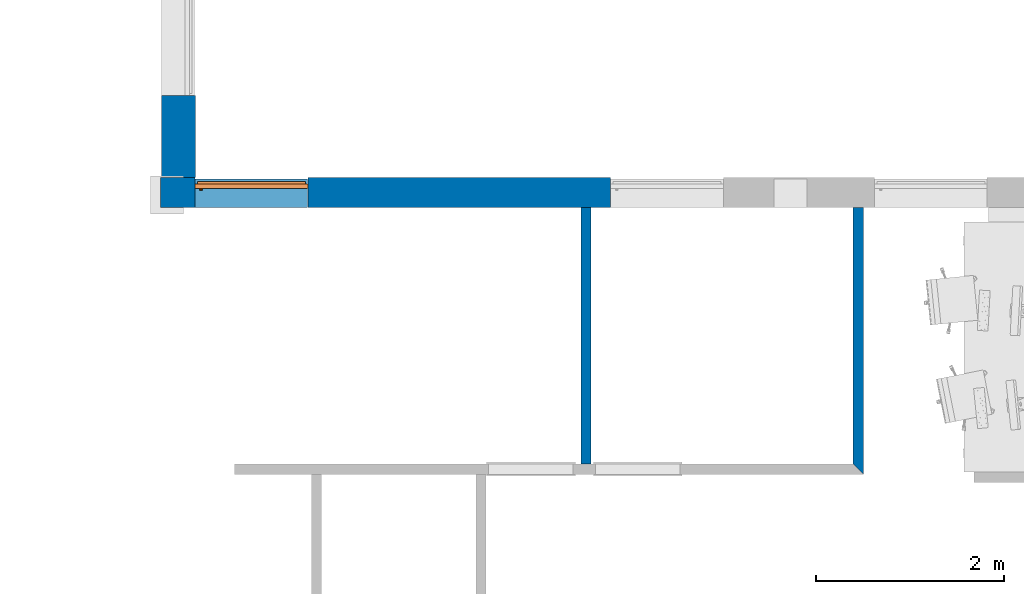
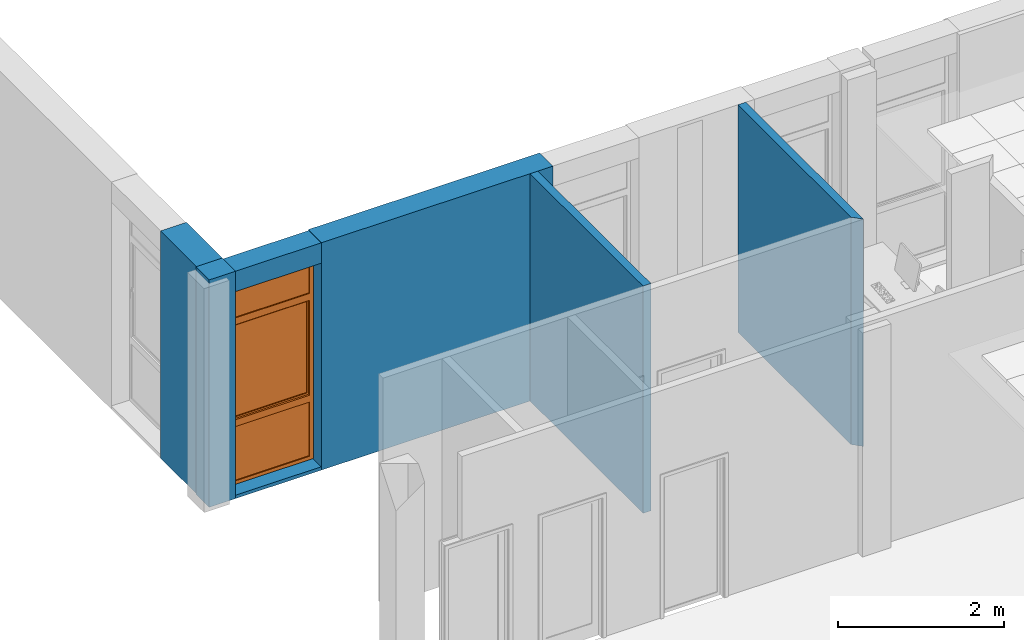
# One storey, part 24 of 68: 6 walls, 1 proxy, 1 opening.
"""IFC2X3 building model written with IfcOpenShell, lengths in millimetres."""

from ifc_helpers import new_model, entity, si_unit, converted_unit, derived_unit, money_unit, direction, frame, origin_with_axes, origin_2d_with_axis, place, context, subcontext, project, spatial, polyline, rectangle, outline, extrude, open_shell, faceted_brep, surface_model, source, transform, mapped, material, layer, layer_set, layer_usage, type_object, element, fill, save


model = new_model("IFC2X3")

# Units and contexts
model_context = context("Model", 3, precision=0.01, world=origin_with_axes(), true_north=direction((0.0, 1.0)))
body_context = subcontext(model_context, "Body", "Model", "MODEL_VIEW")
ifc_project = project(units=[si_unit("LENGTHUNIT", "METRE", prefix="MILLI"), si_unit("AREAUNIT", "SQUARE_METRE"), si_unit("VOLUMEUNIT", "CUBIC_METRE"), converted_unit("PLANEANGLEUNIT", "DEGREE", entity("IfcPlaneAngleMeasure", 0.0174532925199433), si_unit("PLANEANGLEUNIT", "RADIAN"), dimensions=[0, 0, 0, 0, 0, 0, 0]), money_unit("USD"), converted_unit("TIMEUNIT", "Year", entity("IfcTimeMeasure", 31557600.0), si_unit("TIMEUNIT", "SECOND"), dimensions=[0, 0, 1, 0, 0, 0, 0]), si_unit("MASSUNIT", "GRAM", prefix="KILO"), si_unit("THERMODYNAMICTEMPERATUREUNIT", "DEGREE_CELSIUS"), si_unit("LUMINOUSINTENSITYUNIT", "LUMEN"), si_unit("ENERGYUNIT", "JOULE", prefix="MEGA"), derived_unit("THERMALCONDUCTANCEUNIT", [(si_unit("POWERUNIT", "WATT"), 1), (si_unit("LENGTHUNIT", "METRE"), -1), (si_unit("THERMODYNAMICTEMPERATUREUNIT", "KELVIN"), -1)]), derived_unit("SPECIFICHEATCAPACITYUNIT", [(si_unit("ENERGYUNIT", "JOULE"), 1), (si_unit("MASSUNIT", "GRAM", prefix="KILO"), -1), (si_unit("THERMODYNAMICTEMPERATUREUNIT", "KELVIN"), -1)]), derived_unit("MASSDENSITYUNIT", [(si_unit("MASSUNIT", "GRAM", prefix="KILO"), 1), (si_unit("VOLUMEUNIT", "CUBIC_METRE"), -1)])], contexts=[model_context])

# Site, building, storey
site_placement = place(None, origin_with_axes())
site = spatial("IfcSite", under=ifc_project, at=site_placement, Name="Sitio", CompositionType="ELEMENT")
building_placement = place(site_placement, origin_with_axes())
building = spatial("IfcBuilding", under=site, at=building_placement, Name="Construcción", CompositionType="ELEMENT")
storey_placement = place(building_placement, origin_with_axes())
storey = spatial("IfcBuildingStorey", under=building, at=storey_placement, Name="PLANTA 1ª", CompositionType="ELEMENT", Elevation=0.0)

# Wall, opening, proxy
ifc_material_1 = material(Name="ARQ_AM246_Arrebossat_De_Guix")
ifc_layer_1 = layer(ifc_material_1, 20.0, ventilated="UNKNOWN")
ifc_material_2 = material(Name="ARQ_CE217_Gero")
ifc_layer_2 = layer(ifc_material_2, 110.0, ventilated="UNKNOWN")
ifc_material_3 = material(Name="ARQ_AI031_Aillament_Poliestireno expandido EPS")
ifc_layer_3 = layer(ifc_material_3, 100.0, ventilated="UNKNOWN")
ifc_material_4 = material(Name="ARQ_CE218_Ceramic")
ifc_layer_4 = layer(ifc_material_4, 50.0, ventilated="UNKNOWN")
ifc_layer_5 = layer(ifc_material_1, 20.0, ventilated="UNKNOWN")
ifc_layer_set_1 = layer_set([ifc_layer_1, ifc_layer_2, ifc_layer_3, ifc_layer_4, ifc_layer_5], Name="façana pati CR3 (ampit)")
ifc_layer_usage_1 = layer_usage(ifc_layer_set_1, "AXIS2", "POSITIVE", -300.0000000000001)
wall_type_1 = type_object("IfcWallType", Name="façana pati CR3 (ampit) 300", PredefinedType="NOTDEFINED")
wall_1_placement = place(storey_placement, frame((-26497.52587573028, -12338.97582371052, 0.0), z_axis=(0.0, 0.0, 1.0), x_axis=(-1.0, 0.0, 0.0)))
wall_1 = element("IfcWallStandardCase", 1, at=wall_1_placement, inside=storey, type_object=wall_type_1, material=ifc_layer_usage_1, Name="MS-201", context=body_context, shape_type="SweptSolid", body=[
    extrude(outline(polyline([(0.0, -300.0000000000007), (1194.999999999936, -300.0000000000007), (1194.999999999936, 0.0), (0.0, 0.0), (0.0, -300.0000000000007)])), origin_with_axes(), (0.0, 0.0, 1.0), 3350.0),
])
opening_placement = place(wall_1_placement, frame((594.9999999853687, 0.0, 50.0), z_axis=(0.0, 0.0, 1.0), x_axis=(1.0, 0.0, 0.0)))
opening = element("IfcOpeningElement", 2, at=opening_placement, cuts=wall_1, Name="V - 008", context=body_context, shape_type="SweptSolid", body=[
    extrude(rectangle(XDim=1200.000000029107, YDim=3000.0, at=origin_2d_with_axis()), frame((0.0, -250.0, 1500.0), z_axis=(0.0, -1.0, 0.0), x_axis=(-1.0, 0.0, 0.0)), (0.0, 0.0, -1.0), 550.0),
    extrude(rectangle(XDim=1200.000000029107, YDim=3000.0, at=origin_2d_with_axis()), frame((0.0, -250.0, 1500.0), z_axis=(0.0, 1.0, 0.0), x_axis=(-1.0, 0.0, 0.0)), (0.0, 0.0, -1.0), 350.0000000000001),
])
building_element_proxy_type = type_object("IfcBuildingElementProxyType", Name="Ventana Vertical Multi-Faja 27", PredefinedType="NOTDEFINED")
shared_shape = source(origin_with_axes(), body_context, "Body", "SurfaceModel", [
    faceted_brep([(-575.0000000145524, 0.0, 925.0), (-550.0000000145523, 0.0, 925.0), (-550.0000000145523, 0.0, 850.0), (-550.0000000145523, 0.0, 50.00000000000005), (-600.0000000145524, 0.0, 50.00000000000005), (-600.0000000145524, 0.0, 2950.0), (-550.0000000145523, 0.0, 2950.0), (-550.0000000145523, 0.0, 2450.0), (-550.0000000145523, 0.0, 2375.0), (-575.0000000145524, 0.0, 2375.0), (-575.0000000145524, -25.00000000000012, 925.0), (-550.0000000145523, -25.00000000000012, 925.0), (-550.0000000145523, -25.00000000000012, 950.0000000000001), (-550.0000000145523, -50.00000000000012, 950.0000000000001), (-550.0000000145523, -50.00000000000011, 850.0), (-550.0000000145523, -50.00000000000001, 50.00000000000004), (-600.0000000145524, -50.00000000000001, 50.00000000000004), (-600.0000000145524, -50.00000000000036, 2950.0), (-550.0000000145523, -50.00000000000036, 2950.0), (-550.0000000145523, -50.0000000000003, 2450.0), (-550.0000000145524, -25.00000000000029, 2375.0), (-550.0000000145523, -50.00000000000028, 2350.0), (-550.0000000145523, -25.00000000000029, 2350.0), (-575.0000000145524, -25.00000000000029, 2375.0)], [[[0, 1, 2, 3, 4, 5, 6, 7, 8, 9]], [[0, 10, 11, 1]], [[11, 12, 13, 14, 2, 1]], [[3, 2, 14, 15]], [[4, 3, 15, 16]], [[5, 4, 16, 17]], [[6, 5, 17, 18]], [[7, 6, 18, 19]], [[20, 8, 7, 19, 21, 22]], [[20, 23, 9, 8]], [[9, 23, 10, 0]], [[22, 12, 11, 10, 23, 20]], [[22, 21, 13, 12]], [[17, 16, 15, 14, 13, 21, 19, 18]]]),
    faceted_brep([(575.0000000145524, 0.0, 925.0), (575.0000000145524, 0.0, 2375.0), (550.0000000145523, 0.0, 2375.0), (550.0000000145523, 0.0, 2450.0), (550.0000000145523, 0.0, 2950.0), (600.0000000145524, 0.0, 2950.0), (600.0000000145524, 0.0, 50.00000000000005), (550.0000000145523, 0.0, 50.00000000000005), (550.0000000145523, 0.0, 850.0), (550.0000000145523, 0.0, 925.0), (575.0000000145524, -25.00000000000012, 925.0), (575.0000000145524, -25.00000000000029, 2375.0), (550.0000000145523, -25.00000000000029, 2375.0), (550.0000000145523, -25.00000000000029, 2350.0), (550.0000000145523, -50.00000000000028, 2350.0), (550.0000000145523, -50.0000000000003, 2450.0), (550.0000000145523, -50.00000000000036, 2950.0), (600.0000000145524, -50.00000000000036, 2950.0), (600.0000000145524, -50.00000000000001, 50.00000000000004), (550.0000000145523, -50.00000000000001, 50.00000000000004), (550.0000000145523, -50.00000000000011, 850.0), (550.0000000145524, -25.00000000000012, 925.0), (550.0000000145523, -50.00000000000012, 950.0000000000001), (550.0000000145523, -25.00000000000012, 950.0000000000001)], [[[0, 1, 2, 3, 4, 5, 6, 7, 8, 9]], [[0, 10, 11, 1]], [[1, 11, 12, 2]], [[12, 13, 14, 15, 3, 2]], [[4, 3, 15, 16]], [[5, 4, 16, 17]], [[6, 5, 17, 18]], [[7, 6, 18, 19]], [[8, 7, 19, 20]], [[21, 9, 8, 20, 22, 23]], [[9, 21, 10, 0]], [[12, 11, 10, 21, 23, 13]], [[23, 22, 14, 13]], [[14, 22, 20, 19, 18, 17, 16, 15]]]),
    faceted_brep([(-550.0000000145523, -25.00000000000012, 950.0000000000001), (-550.0000000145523, -50.00000000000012, 950.0000000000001), (550.0000000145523, -50.00000000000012, 950.0000000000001), (550.0000000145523, -25.00000000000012, 950.0000000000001), (-550.0000000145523, -25.00000000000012, 925.0), (-550.0000000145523, 0.0, 925.0), (-550.0000000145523, 0.0, 850.0), (-550.0000000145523, -50.00000000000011, 850.0), (550.0000000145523, -50.00000000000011, 850.0), (550.0000000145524, -25.00000000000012, 925.0), (550.0000000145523, 0.0, 850.0), (550.0000000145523, 0.0, 925.0)], [[[0, 1, 2, 3]], [[4, 5, 6, 7, 1, 0]], [[1, 7, 8, 2]], [[9, 3, 2, 8, 10, 11]], [[9, 4, 0, 3]], [[5, 4, 9, 11]], [[11, 10, 6, 5]], [[6, 10, 8, 7]]]),
    faceted_brep([(-550.0000000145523, 0.0, 2375.0), (-550.0000000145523, 0.0, 2450.0), (550.0000000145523, 0.0, 2450.0), (550.0000000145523, 0.0, 2375.0), (-550.0000000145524, -25.00000000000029, 2375.0), (-550.0000000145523, -25.00000000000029, 2350.0), (-550.0000000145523, -50.00000000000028, 2350.0), (-550.0000000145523, -50.0000000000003, 2450.0), (550.0000000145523, -50.0000000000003, 2450.0), (550.0000000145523, -25.00000000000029, 2375.0), (550.0000000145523, -50.00000000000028, 2350.0), (550.0000000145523, -25.00000000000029, 2350.0)], [[[0, 1, 2, 3]], [[4, 5, 6, 7, 1, 0]], [[2, 1, 7, 8]], [[9, 3, 2, 8, 10, 11]], [[9, 4, 0, 3]], [[11, 5, 4, 9]], [[11, 10, 6, 5]], [[7, 6, 10, 8]]]),
    faceted_brep([(550.0000000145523, -50.00000000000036, 2950.0), (550.0000000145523, 0.0, 2950.0), (600.0000000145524, 0.0, 2950.0), (600.0000000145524, -50.00000000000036, 2950.0), (-550.0000000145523, -50.00000000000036, 2950.0), (-550.0000000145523, 0.0, 2950.0), (-600.0000000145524, 0.0, 2950.0), (-600.0000000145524, 0.0, 3000.0), (600.0000000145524, 0.0, 3000.0), (600.0000000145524, -50.00000000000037, 3000.0), (-600.0000000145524, -50.00000000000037, 3000.0), (-600.0000000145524, -50.00000000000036, 2950.0)], [[[0, 1, 2, 3]], [[4, 5, 1, 0]], [[1, 5, 6, 7, 8, 2]], [[3, 2, 8, 9]], [[0, 3, 9, 10, 11, 4]], [[11, 6, 5, 4]], [[10, 7, 6, 11]], [[9, 8, 7, 10]]]),
    faceted_brep([(-550.0000000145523, -50.00000000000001, 50.0), (-550.0000000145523, 0.0, 50.00000000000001), (-600.0000000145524, 0.0, 50.00000000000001), (-600.0000000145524, -50.00000000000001, 50.0), (550.0000000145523, -50.00000000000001, 50.0), (550.0000000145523, 0.0, 50.00000000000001), (600.0000000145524, 0.0, 50.00000000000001), (600.0000000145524, 0.0, 0.0), (-600.0000000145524, 0.0, 0.0), (-600.0000000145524, -50.0, 0.0), (600.0000000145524, -50.0, 0.0), (600.0000000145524, -50.00000000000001, 50.0)], [[[0, 1, 2, 3]], [[4, 5, 1, 0]], [[1, 5, 6, 7, 8, 2]], [[3, 2, 8, 9]], [[0, 3, 9, 10, 11, 4]], [[11, 6, 5, 4]], [[10, 7, 6, 11]], [[9, 8, 7, 10]]]),
    surface_model("IfcShellBasedSurfaceModel", [(-550.0000000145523, -35.0, 49.99999999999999), (550.0000000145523, -35.0, 49.99999999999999), (550.0000000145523, -35.0000000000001, 850.0), (-550.0000000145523, -35.0000000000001, 850.0)], [open_shell([[[0, 1, 2, 3]]])]),
    surface_model("IfcShellBasedSurfaceModel", [(-550.0000000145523, -15.0, 49.99999999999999), (-550.0000000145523, -15.0000000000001, 850.0), (550.0000000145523, -15.0000000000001, 850.0), (550.0000000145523, -15.0, 49.99999999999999)], [open_shell([[[0, 1, 2, 3]]])]),
    faceted_brep([(-521.5000000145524, -25.00000000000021, 1677.0), (-522.839745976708, -25.00000000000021, 1682.0), (-522.839745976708, -37.00000000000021, 1682.0), (-521.5000000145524, -37.00000000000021, 1677.0), (-521.5000000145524, -25.0000000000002, 1623.0), (-522.839745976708, -25.0000000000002, 1618.0), (-526.5000000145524, -25.0000000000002, 1614.339745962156), (-531.5000000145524, -25.0000000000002, 1613.0), (-543.5000000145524, -25.0000000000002, 1613.0), (-548.5000000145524, -25.0000000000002, 1614.339745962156), (-552.1602540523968, -25.0000000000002, 1618.0), (-553.5000000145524, -25.0000000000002, 1623.0), (-553.5000000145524, -25.00000000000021, 1677.0), (-552.1602540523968, -25.00000000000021, 1682.0), (-548.5000000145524, -25.00000000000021, 1685.660254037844), (-543.5000000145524, -25.00000000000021, 1687.0), (-531.5000000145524, -25.00000000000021, 1687.0), (-526.5000000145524, -25.00000000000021, 1685.660254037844), (-526.5000000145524, -37.00000000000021, 1685.660254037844), (-531.5000000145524, -37.00000000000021, 1687.0), (-543.5000000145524, -37.00000000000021, 1687.0), (-548.5000000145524, -37.00000000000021, 1685.660254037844), (-552.1602540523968, -37.00000000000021, 1682.0), (-553.5000000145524, -37.00000000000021, 1677.0), (-553.5000000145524, -37.0000000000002, 1623.0), (-552.1602540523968, -37.0000000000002, 1618.0), (-548.5000000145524, -37.0000000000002, 1614.339745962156), (-543.5000000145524, -37.0000000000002, 1613.0), (-531.5000000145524, -37.0000000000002, 1613.0), (-526.5000000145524, -37.0000000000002, 1614.339745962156), (-522.839745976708, -37.0000000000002, 1618.0), (-521.5000000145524, -37.0000000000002, 1623.0)], [[[0, 1, 2, 3]], [[0, 4, 5, 6, 7, 8, 9, 10, 11, 12, 13, 14, 15, 16, 17, 1]], [[1, 17, 18, 2]], [[3, 2, 18, 19, 20, 21, 22, 23, 24, 25, 26, 27, 28, 29, 30, 31]], [[4, 0, 3, 31]], [[5, 4, 31, 30]], [[6, 5, 30, 29]], [[7, 6, 29, 28]], [[8, 7, 28, 27]], [[9, 8, 27, 26]], [[10, 9, 26, 25]], [[11, 10, 25, 24]], [[12, 11, 24, 23]], [[13, 12, 23, 22]], [[14, 13, 22, 21]], [[15, 14, 21, 20]], [[16, 15, 20, 19]], [[17, 16, 19, 18]]]),
    faceted_brep([(-537.5000000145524, -37.0000000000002, 1663.5), (-544.2500000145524, -37.0000000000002, 1661.69134295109), (-544.2500000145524, -61.00000000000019, 1661.69134295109), (-537.5000000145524, -61.00000000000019, 1663.5), (-530.7500000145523, -37.0000000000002, 1661.69134295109), (-525.8086570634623, -37.0000000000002, 1656.75), (-524.0000000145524, -37.0000000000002, 1650.0), (-525.8086570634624, -37.0000000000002, 1643.25), (-530.7500000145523, -37.0000000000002, 1638.30865704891), (-537.5000000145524, -37.0000000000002, 1636.5), (-544.2500000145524, -37.0000000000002, 1638.30865704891), (-549.1913429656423, -37.0000000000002, 1643.25), (-551.0000000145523, -37.0000000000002, 1650.0), (-549.1913429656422, -37.0000000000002, 1656.75), (-549.1913429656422, -61.00000000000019, 1656.75), (-551.0000000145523, -61.00000000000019, 1650.0), (-549.1913429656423, -61.00000000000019, 1643.25), (-544.2500000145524, -61.00000000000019, 1638.30865704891), (-537.5000000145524, -61.00000000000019, 1636.5), (-530.7500000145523, -61.00000000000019, 1638.30865704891), (-525.8086570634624, -61.00000000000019, 1643.25), (-524.0000000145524, -61.00000000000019, 1650.0), (-525.8086570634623, -61.00000000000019, 1656.75), (-530.7500000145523, -61.00000000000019, 1661.69134295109)], [[[0, 1, 2, 3]], [[0, 4, 5, 6, 7, 8, 9, 10, 11, 12, 13, 1]], [[1, 13, 14, 2]], [[3, 2, 14, 15, 16, 17, 18, 19, 20, 21, 22, 23]], [[4, 0, 3, 23]], [[5, 4, 23, 22]], [[6, 5, 22, 21]], [[7, 6, 21, 20]], [[8, 7, 20, 19]], [[9, 8, 19, 18]], [[10, 9, 18, 17]], [[11, 10, 17, 16]], [[12, 11, 16, 15]], [[13, 12, 15, 14]]]),
    faceted_brep([(-526.0000000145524, -61.00000000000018, 1543.0), (-537.5000000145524, -61.00000000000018, 1540.0), (-549.0000000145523, -61.00000000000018, 1543.0), (-551.0000000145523, -61.00000000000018, 1546.0), (-551.0000000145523, -61.00000000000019, 1650.0), (-549.1913429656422, -61.00000000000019, 1656.75), (-544.2500000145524, -61.00000000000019, 1661.69134295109), (-537.5000000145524, -61.00000000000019, 1663.5), (-530.7500000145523, -61.00000000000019, 1661.69134295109), (-525.8086570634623, -61.00000000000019, 1656.75), (-524.0000000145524, -61.00000000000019, 1650.0), (-524.0000000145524, -61.00000000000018, 1546.0), (-525.9999999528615, -69.00000000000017, 1543.000000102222), (-537.4999999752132, -69.00000000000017, 1539.999999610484), (-548.9999999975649, -69.00000000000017, 1543.000000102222), (-551.0000003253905, -69.00000000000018, 1545.999999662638), (-551.0000003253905, -69.0000000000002, 1649.99999994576), (-549.1913430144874, -69.0000000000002, 1656.749999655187), (-544.2499996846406, -69.0000000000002, 1661.691342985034), (-537.4999999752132, -69.0000000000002, 1663.500000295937), (-530.7500002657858, -69.0000000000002, 1661.691342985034), (-525.808656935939, -69.0000000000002, 1656.749999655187), (-523.9999996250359, -69.0000000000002, 1649.99999994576), (-523.9999996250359, -69.00000000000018, 1545.999999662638), (-527.8625374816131, -71.99999956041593, 1545.61451963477), (-537.4999999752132, -71.99999956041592, 1543.100398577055), (-547.1374624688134, -71.99999956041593, 1545.61451963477), (-548.0000007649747, -71.99999956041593, 1546.908326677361), (-548.0000007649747, -71.99999956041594, 1649.605042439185), (-546.5016170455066, -71.99999956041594, 1655.197085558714), (-542.6970855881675, -71.99999956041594, 1659.001617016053), (-537.4999999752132, -71.99999956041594, 1660.394172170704), (-532.302914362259, -71.99999956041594, 1659.001617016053), (-528.4983829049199, -71.99999956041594, 1655.197085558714), (-526.9999991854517, -71.99999956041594, 1649.605042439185), (-526.9999991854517, -71.99999956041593, 1546.908326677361)], [[[0, 1, 2, 3, 4, 5, 6, 7, 8, 9, 10, 11]], [[1, 0, 12, 13]], [[2, 1, 13, 14]], [[3, 2, 14, 15]], [[4, 3, 15, 16]], [[5, 4, 16, 17]], [[6, 5, 17, 18]], [[7, 6, 18, 19]], [[8, 7, 19, 20]], [[9, 8, 20, 21]], [[10, 9, 21, 22]], [[11, 10, 22, 23]], [[0, 11, 23, 12]], [[13, 12, 24, 25]], [[14, 13, 25, 26]], [[15, 14, 26, 27]], [[16, 15, 27, 28]], [[17, 16, 28, 29]], [[18, 17, 29, 30]], [[19, 18, 30, 31]], [[20, 19, 31, 32]], [[21, 20, 32, 33]], [[22, 21, 33, 34]], [[23, 22, 34, 35]], [[12, 23, 35, 24]], [[26, 25, 24, 35, 34, 33, 32, 31, 30, 29, 28, 27]]]),
    faceted_brep([(-525.0000000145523, -25.00000000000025, 2325.0), (-525.0000000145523, 24.99999999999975, 2325.0), (-575.0000000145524, 24.99999999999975, 2325.0), (-575.0000000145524, -25.00000000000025, 2325.0), (-525.0000000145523, -25.00000000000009, 975.0000000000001), (-525.0000000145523, 24.99999999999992, 975.0000000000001), (-575.0000000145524, 24.99999999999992, 975.0000000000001), (-575.0000000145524, -25.00000000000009, 975.0000000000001)], [[[0, 1, 2, 3]], [[4, 5, 1, 0]], [[1, 5, 6, 2]], [[3, 2, 6, 7]], [[0, 3, 7, 4]], [[7, 6, 5, 4]]]),
    faceted_brep([(525.0000000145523, -25.00000000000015, 975.0000000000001), (525.0000000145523, 24.99999999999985, 975.0000000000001), (575.0000000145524, 24.99999999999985, 975.0000000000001), (575.0000000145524, -25.00000000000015, 975.0000000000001), (525.0000000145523, -25.00000000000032, 2325.0), (525.0000000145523, 24.99999999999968, 2325.0), (575.0000000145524, 24.99999999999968, 2325.0), (575.0000000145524, -25.00000000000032, 2325.0)], [[[0, 1, 2, 3]], [[4, 5, 1, 0]], [[1, 5, 6, 2]], [[3, 2, 6, 7]], [[0, 3, 7, 4]], [[7, 6, 5, 4]]]),
    faceted_brep([(575.0000000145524, -25.00000000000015, 925.0), (575.0000000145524, 24.99999999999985, 925.0), (575.0000000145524, 24.99999999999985, 975.0000000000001), (575.0000000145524, -25.00000000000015, 975.0000000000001), (-575.0000000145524, -25.00000000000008, 925.0), (-575.0000000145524, 24.99999999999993, 925.0), (-575.0000000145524, 24.99999999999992, 975.0000000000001), (-525.0000000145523, 24.99999999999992, 975.0000000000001), (525.0000000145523, 24.99999999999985, 975.0000000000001), (525.0000000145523, -25.00000000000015, 975.0000000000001), (-525.0000000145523, -25.00000000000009, 975.0000000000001), (-575.0000000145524, -25.00000000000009, 975.0000000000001)], [[[0, 1, 2, 3]], [[4, 5, 1, 0]], [[1, 5, 6, 7, 8, 2]], [[3, 2, 8, 9]], [[0, 3, 9, 10, 11, 4]], [[11, 6, 5, 4]], [[10, 7, 6, 11]], [[9, 8, 7, 10]]]),
    faceted_brep([(-575.0000000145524, -25.00000000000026, 2375.0), (-575.0000000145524, 24.99999999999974, 2375.0), (-575.0000000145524, 24.99999999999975, 2325.0), (-575.0000000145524, -25.00000000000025, 2325.0), (575.0000000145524, -25.00000000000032, 2375.0), (575.0000000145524, 24.99999999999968, 2375.0), (575.0000000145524, 24.99999999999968, 2325.0), (525.0000000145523, 24.99999999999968, 2325.0), (-525.0000000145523, 24.99999999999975, 2325.0), (-525.0000000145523, -25.00000000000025, 2325.0), (525.0000000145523, -25.00000000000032, 2325.0), (575.0000000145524, -25.00000000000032, 2325.0)], [[[0, 1, 2, 3]], [[4, 5, 1, 0]], [[1, 5, 6, 7, 8, 2]], [[3, 2, 8, 9]], [[0, 3, 9, 10, 11, 4]], [[11, 6, 5, 4]], [[10, 7, 6, 11]], [[9, 8, 7, 10]]]),
    surface_model("IfcShellBasedSurfaceModel", [(-525.0000000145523, -10.00000000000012, 975.0000000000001), (525.0000000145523, -10.00000000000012, 975.0000000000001), (525.0000000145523, -10.00000000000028, 2325.0), (-525.0000000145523, -10.00000000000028, 2325.0)], [open_shell([[[0, 1, 2, 3]]])]),
    surface_model("IfcShellBasedSurfaceModel", [(-525.0000000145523, 9.999999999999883, 975.0000000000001), (-525.0000000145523, 9.99999999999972, 2325.0), (525.0000000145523, 9.99999999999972, 2325.0), (525.0000000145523, 9.999999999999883, 975.0000000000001)], [open_shell([[[0, 1, 2, 3]]])]),
    surface_model("IfcShellBasedSurfaceModel", [(-550.0000000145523, -35.0000000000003, 2450.0), (550.0000000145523, -35.0000000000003, 2450.0), (550.0000000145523, -35.00000000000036, 2950.0), (-550.0000000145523, -35.00000000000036, 2950.0)], [open_shell([[[0, 1, 2, 3]]])]),
    surface_model("IfcShellBasedSurfaceModel", [(-550.0000000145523, -15.0000000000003, 2450.0), (-550.0000000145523, -15.00000000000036, 2950.0), (550.0000000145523, -15.00000000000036, 2950.0), (550.0000000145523, -15.0000000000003, 2450.0)], [open_shell([[[0, 1, 2, 3]]])]),
])
proxy_placement = place(opening_placement, frame((600.0000000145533, 0.0, 0.0), z_axis=(0.0, 0.0, 1.0), x_axis=(-1.0, 0.0, 0.0)))
proxy = element("IfcBuildingElementProxy", 3, at=proxy_placement, inside=storey, type_object=building_element_proxy_type, Name="V - 008", context=body_context, shape_type="MappedRepresentation", body=[
    mapped(shared_shape, transform((600.0000000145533, 250.0, 0.0))),
])
fill(opening, proxy)

# Walls
ifc_layer_6 = layer(ifc_material_2, 150.0, ventilated="UNKNOWN")
ifc_layer_7 = layer(ifc_material_3, 100.0, ventilated="UNKNOWN")
ifc_layer_8 = layer(ifc_material_4, 50.0, ventilated="UNKNOWN")
ifc_layer_9 = layer(ifc_material_1, 20.0, ventilated="UNKNOWN")
ifc_layer_set_2 = layer_set([ifc_layer_6, ifc_layer_7, ifc_layer_8, ifc_layer_9], Name="façana pati CR3")
ifc_layer_usage_2 = layer_usage(ifc_layer_set_2, "AXIS2", "POSITIVE", -320.0)
wall_type_2 = type_object("IfcWallType", Name="façana pati CR3 320", PredefinedType="NOTDEFINED")
wall_2_placement = place(storey_placement, frame((-27692.52587573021, -12338.97582371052, 0.0), z_axis=(0.0, 0.0, 1.0), x_axis=(-1.0, 0.0, 0.0)))
element("IfcWallStandardCase", 4, at=wall_2_placement, inside=storey, type_object=wall_type_2, material=ifc_layer_usage_2, Name="MS-201", context=body_context, shape_type="SweptSolid", body=[
    extrude(outline(polyline([(0.0, -320.0000000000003), (367.6612978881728, -320.0000000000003), (367.6612978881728, 0.0), (0.0, 0.0), (0.0, -320.0000000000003)])), origin_with_axes(), (0.0, 0.0, 1.0), 3350.0),
])
ifc_layer_usage_3 = layer_usage(ifc_layer_set_2, "AXIS2", "POSITIVE", -320.0)
wall_3_placement = place(storey_placement, frame((-23271.109004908, -12338.97582371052, 0.0), z_axis=(0.0, 0.0, 1.0), x_axis=(-1.0, 0.0, 0.0)))
element("IfcWallStandardCase", 5, at=wall_3_placement, inside=storey, type_object=wall_type_2, material=ifc_layer_usage_3, Name="MS-201", context=body_context, shape_type="SweptSolid", body=[
    extrude(outline(polyline([(0.0, -320.0000000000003), (3221.416870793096, -320.0000000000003), (3221.416870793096, 0.0), (0.0, 0.0), (0.0, -320.0000000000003)])), origin_with_axes(), (0.0, 0.0, 1.0), 3350.0),
])
ifc_layer_10 = layer(ifc_material_2, 150.0, ventilated="UNKNOWN")
ifc_layer_11 = layer(ifc_material_3, 140.0, ventilated="UNKNOWN")
ifc_layer_12 = layer(ifc_material_4, 50.0, ventilated="UNKNOWN")
ifc_layer_13 = layer(ifc_material_1, 20.0, ventilated="UNKNOWN")
ifc_layer_set_3 = layer_set([ifc_layer_10, ifc_layer_11, ifc_layer_12, ifc_layer_13], Name="façana pati CR4")
ifc_layer_usage_4 = layer_usage(ifc_layer_set_3, "AXIS2", "POSITIVE", -360.0000000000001)
wall_type_3 = type_object("IfcWallType", Name="façana pati CR4 360", PredefinedType="NOTDEFINED")
wall_4_placement = place(storey_placement, frame((-28050.84818028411, -12338.97582371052, 0.0), z_axis=(0.0, 0.0, 1.0), x_axis=(0.0, 1.0, 0.0)))
element("IfcWallStandardCase", 6, at=wall_4_placement, inside=storey, type_object=wall_type_3, material=ifc_layer_usage_4, Name="MS-200", context=body_context, shape_type="SweptSolid", body=[
    extrude(outline(polyline([(320.0000000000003, -359.9999999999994), (1188.000000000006, -359.9999999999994), (1188.000000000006, 0.0), (320.0000000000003, 0.0), (320.0000000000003, -359.9999999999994)])), origin_with_axes(), (0.0, 0.0, 1.0), 3350.0),
])
ifc_layer_14 = layer(ifc_material_1, 10.0, ventilated="UNKNOWN")
ifc_layer_15 = layer(ifc_material_2, 90.0, ventilated="UNKNOWN")
ifc_layer_16 = layer(ifc_material_1, 10.0, ventilated="UNKNOWN")
ifc_layer_set_4 = layer_set([ifc_layer_14, ifc_layer_15, ifc_layer_16], Name="CR Enva Totxana")
ifc_layer_usage_5 = layer_usage(ifc_layer_set_4, "AXIS2", "POSITIVE", 0.0)
wall_type_4 = type_object("IfcWallType", Name="CR Enva Totxana 110", PredefinedType="NOTDEFINED")
wall_5_placement = place(storey_placement, frame((-23478.60900490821, -15178.97582371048, 0.0), z_axis=(0.0, 0.0, 1.0), x_axis=(0.0, 1.0, 0.0)))
element("IfcWallStandardCase", 7, at=wall_5_placement, inside=storey, type_object=wall_type_4, material=ifc_layer_usage_5, Name="MS-201", context=body_context, shape_type="SweptSolid", body=[
    extrude(outline(polyline([(109.9999999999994, 0.0), (2839.999999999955, 0.0), (2839.999999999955, 109.9999999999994), (109.9999999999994, 109.9999999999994), (109.9999999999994, 0.0)])), origin_with_axes(), (0.0, 0.0, 1.0), 3350.0),
])
ifc_layer_usage_6 = layer_usage(ifc_layer_set_4, "AXIS2", "POSITIVE", 0.0)
wall_6_placement = place(storey_placement, frame((-20581.43135578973, -15178.97582371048, 0.0), z_axis=(0.0, 0.0, 1.0), x_axis=(0.0, 1.0, 0.0)))
element("IfcWallStandardCase", 8, at=wall_6_placement, inside=storey, type_object=wall_type_4, material=ifc_layer_usage_6, Name="MS-201", context=body_context, shape_type="SweptSolid", body=[
    extrude(outline(polyline([(0.0, 0.0), (2839.999999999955, 0.0), (2839.999999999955, 109.9999999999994), (109.9999999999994, 109.9999999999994), (0.0, 0.0)])), origin_with_axes(), (0.0, 0.0, 1.0), 3350.0),
])

save(model, "model.ifc")
